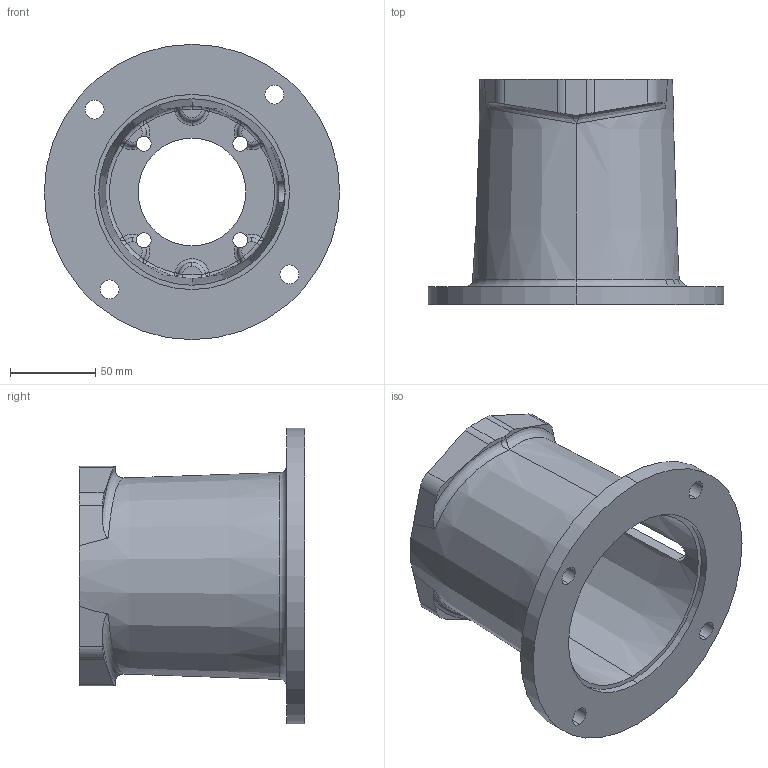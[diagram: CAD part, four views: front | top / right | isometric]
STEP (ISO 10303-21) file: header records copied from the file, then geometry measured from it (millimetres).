
FILE_DESCRIPTION (( 'STEP AP203' ), '1' );
FILE_NAME ('M0565263MS.STEP', '2015-01-19T15:30:35', ( '' ), ( '' ), 'SwSTEP 2.0', 'SolidWorks 2014', '' );
FILE_SCHEMA (( 'CONFIG_CONTROL_DESIGN' ));
Length unit declared in the file: inch
Products named in the file (1): M0565263MS
Bounding box: 172.97 x 131.95 x 172.97 mm (x, y, z)
Volume: 486947.8 mm3; surface area: 133215.7 mm2
Topology: 1 solids, 1 shells, 183 faces, 481 edges, 284 vertices
Faces by surface type: torus 54, cylinder 34, bspline 30, plane 27, sphere 24, cone 14
Entity records: 7800 total; most frequent: CARTESIAN_POINT 3414, ORIENTED_EDGE 934, DIRECTION 926, EDGE_CURVE 467, AXIS2_PLACEMENT_3D 427, VERTEX_POINT 284, CIRCLE 273, EDGE_LOOP 201
